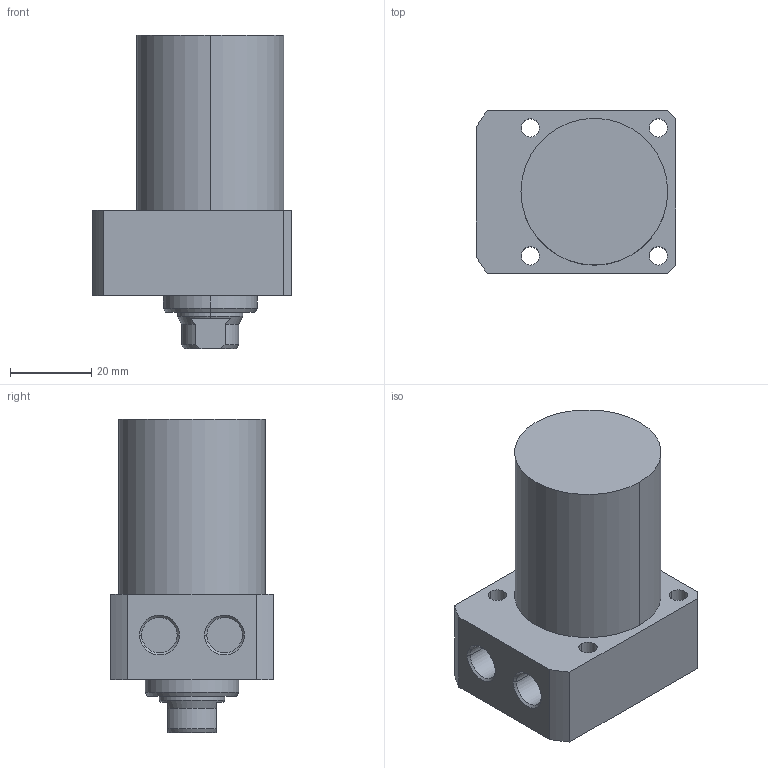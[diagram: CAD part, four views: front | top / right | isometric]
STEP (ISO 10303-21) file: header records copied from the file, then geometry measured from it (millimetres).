
FILE_DESCRIPTION((' '),'2;1');
FILE_NAME( 'TLLR-036CA-035.STEP.stp', '2025-10-24T16:35:43', (' '), ('--- Datakit www.datakit.com---'), ' Datakit CrossCadWare V2024.1 Dec 21 2023', 'Mastercam 2025', ' ');
FILE_SCHEMA(('AUTOMOTIVE_DESIGN { 1 0 10303 214 1 1 1 1 }'));
Length unit declared in the file: millimetre
Products named in the file (1): TLLR-036CA-035
Bounding box: 49 x 40 x 77 mm (x, y, z)
Volume: 84472.3 mm3; surface area: 14943 mm2
Topology: 1 solids, 1 shells, 61 faces, 172 edges, 119 vertices
Faces by surface type: cylinder 28, plane 19, cone 14
Entity records: 2092 total; most frequent: DIRECTION 384, CARTESIAN_POINT 383, ORIENTED_EDGE 340, EDGE_CURVE 170, AXIS2_PLACEMENT_3D 160, VERTEX_POINT 119, CIRCLE 98, EDGE_LOOP 77
